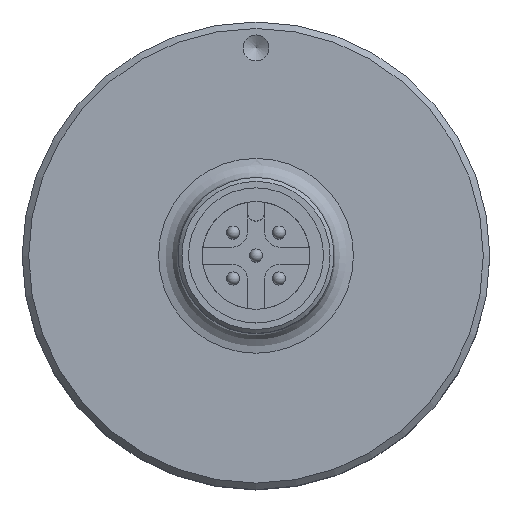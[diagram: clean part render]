
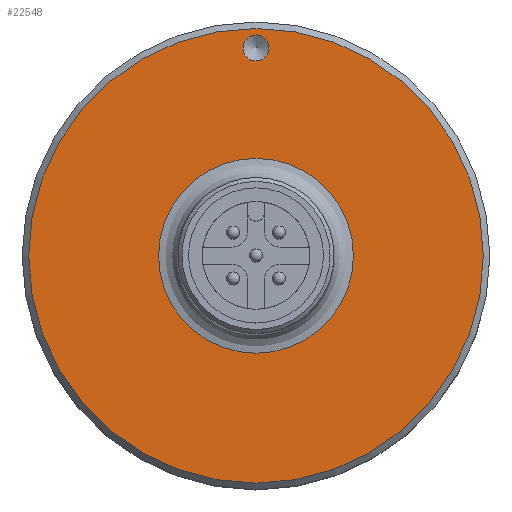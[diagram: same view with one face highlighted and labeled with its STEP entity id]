
A CAD part, top view. The second image highlights one B-rep face of the part: STEP entity #22548.
In plain terms, the highlighted planar face has unit normal (0, 0, 1).
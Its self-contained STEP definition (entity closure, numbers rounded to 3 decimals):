
#22486=CARTESIAN_POINT('',(-1.556,10.383,19.3));
#22487=VERTEX_POINT('',#22486);
#22488=CARTESIAN_POINT('',(-1.556,2.883,19.3));
#22489=DIRECTION('',(0.0,0.0,1.0));
#22490=DIRECTION('',(0.0,-1.0,0.0));
#22491=AXIS2_PLACEMENT_3D('',#22488,#22489,#22490);
#22492=CIRCLE('',#22491,7.5);
#22493=EDGE_CURVE('',#22487,#22487,#22492,.T.);
#22518=CARTESIAN_POINT('',(-2.45,2.922,19.3));
#22519=DIRECTION('',(0.0,0.0,1.0));
#22520=DIRECTION('',(0.0,1.0,0.0));
#22521=AXIS2_PLACEMENT_3D('',#22518,#22519,#22520);
#22522=PLANE('',#22521);
#22523=CARTESIAN_POINT('',(-1.556,-14.617,19.3));
#22524=VERTEX_POINT('',#22523);
#22525=CARTESIAN_POINT('',(-1.556,2.883,19.3));
#22526=DIRECTION('',(0.0,0.0,-1.0));
#22527=DIRECTION('',(0.0,1.0,0.0));
#22528=AXIS2_PLACEMENT_3D('',#22525,#22526,#22527);
#22529=CIRCLE('',#22528,17.5);
#22530=EDGE_CURVE('',#22524,#22524,#22529,.T.);
#22531=ORIENTED_EDGE('',*,*,#22530,.F.);
#22532=EDGE_LOOP('',(#22531));
#22533=FACE_OUTER_BOUND('',#22532,.T.);
#22534=CARTESIAN_POINT('',(-1.556,19.883,19.3));
#22535=VERTEX_POINT('',#22534);
#22536=CARTESIAN_POINT('',(-1.556,18.883,19.3));
#22537=DIRECTION('',(0.0,0.0,-1.0));
#22538=DIRECTION('',(0.0,1.0,0.0));
#22539=AXIS2_PLACEMENT_3D('',#22536,#22537,#22538);
#22540=CIRCLE('',#22539,1.0);
#22541=EDGE_CURVE('',#22535,#22535,#22540,.T.);
#22542=ORIENTED_EDGE('',*,*,#22541,.T.);
#22543=EDGE_LOOP('',(#22542));
#22544=FACE_BOUND('',#22543,.T.);
#22545=ORIENTED_EDGE('',*,*,#22493,.F.);
#22546=EDGE_LOOP('',(#22545));
#22547=FACE_BOUND('',#22546,.T.);
#22548=ADVANCED_FACE('',(#22533,#22544,#22547),#22522,.T.);
